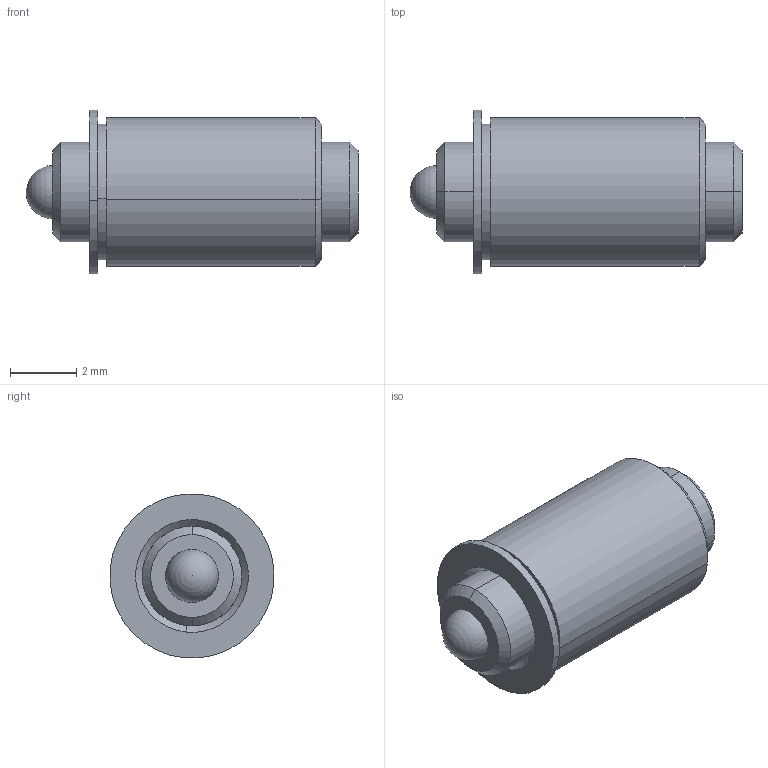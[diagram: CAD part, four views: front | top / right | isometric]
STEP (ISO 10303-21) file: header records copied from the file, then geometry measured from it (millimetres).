
FILE_DESCRIPTION (( 'STEP AP214' ), '1' );
FILE_NAME ('TSBM3-25-10_7.STEP', '2013-03-14T20:11:55', ( 'workpc' ), ( 'Microsoft' ), 'SwSTEP 2.0', 'SolidWorks 2013', '' );
FILE_SCHEMA (( 'AUTOMOTIVE_DESIGN' ));
Length unit declared in the file: inch
Products named in the file (1): TSBM3-25-10_7
Bounding box: 10 x 4.94 x 4.94 mm (x, y, z)
Surface area: 241.1 mm2 (no closed solid volume)
Topology: 0 solids, 3 shells, 32 faces, 75 edges, 49 vertices
Faces by surface type: plane 12, cone 10, cylinder 8, sphere 2
Entity records: 1325 total; most frequent: DIRECTION 170, CARTESIAN_POINT 149, ORIENTED_EDGE 128, EDGE_CURVE 70, AXIS2_PLACEMENT_3D 67, VERTEX_POINT 46, EDGE_LOOP 38, LINE 36
